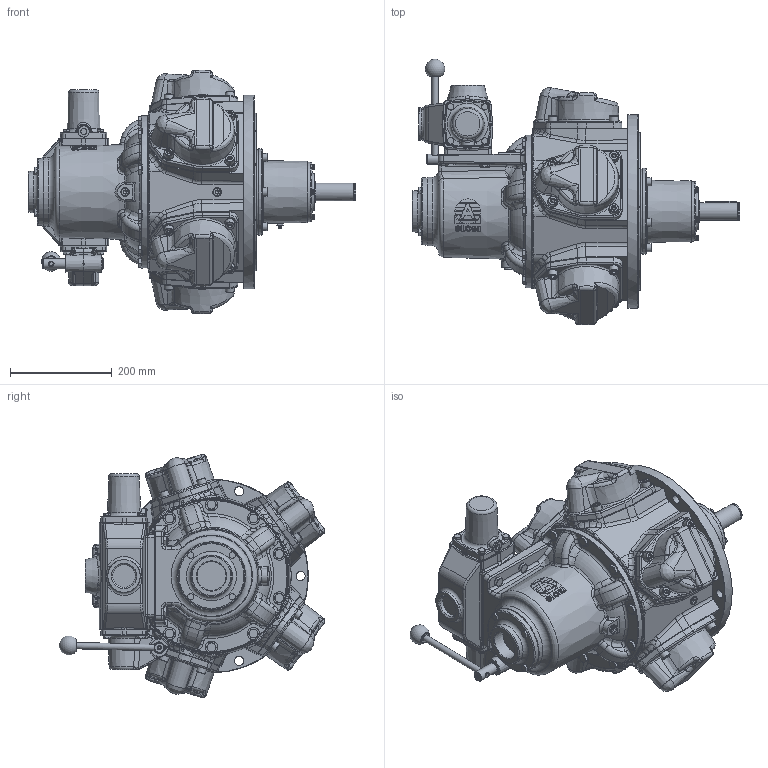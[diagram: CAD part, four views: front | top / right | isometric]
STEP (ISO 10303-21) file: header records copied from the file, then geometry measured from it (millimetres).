
FILE_DESCRIPTION (( 'STEP AP214' ), '1' );
FILE_NAME ('RM610+HCV510 Defeature + Logo.STEP', '2023-05-17T14:09:45', ( '' ), ( '' ), 'SwSTEP 2.0', 'SolidWorks 2022', '' );
FILE_SCHEMA (( 'AUTOMOTIVE_DESIGN' ));
Length unit declared in the file: millimetre
Products named in the file (1): RM610+HCV510 Defeature + Logo
Bounding box: 643.78 x 521.68 x 477.82 mm (x, y, z)
Volume: 35654500.1 mm3; surface area: 1013692.9 mm2
Topology: 1 solids, 2 shells, 3557 faces, 8379 edges, 4938 vertices
Faces by surface type: plane 1463, cone 689, bspline 649, cylinder 581, torus 148, sphere 27
Full cylindrical faces by diameter (mm): 2 x4, 2.5 x2, 3 x1, 3.2 x1, 6.8 x1, 8 x1, 10 x7, 11.445 x4, 11.9 x12, 12.7 x1, 13 x1, 16 x15, 17 x22, 18 x25, 20 x22, 21.5 x3, 22 x1, 24.8 x1, 35.01 x1, 44.845 x2, 48 x1, 51.398 x1, 57 x1, 62 x1, 64 x1, 125 x1, 165.045 x1, 169 x1, 302 x1, 309.96 x1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
Entity records: 188473 total; most frequent: CARTESIAN_POINT 76315, ORIENTED_EDGE 15778, DIRECTION 13892, EDGE_CURVE 7889, AXIS2_PLACEMENT_3D 5581, VERTEX_POINT 4792, EDGE_LOOP 4025, FACE_OUTER_BOUND 3714
